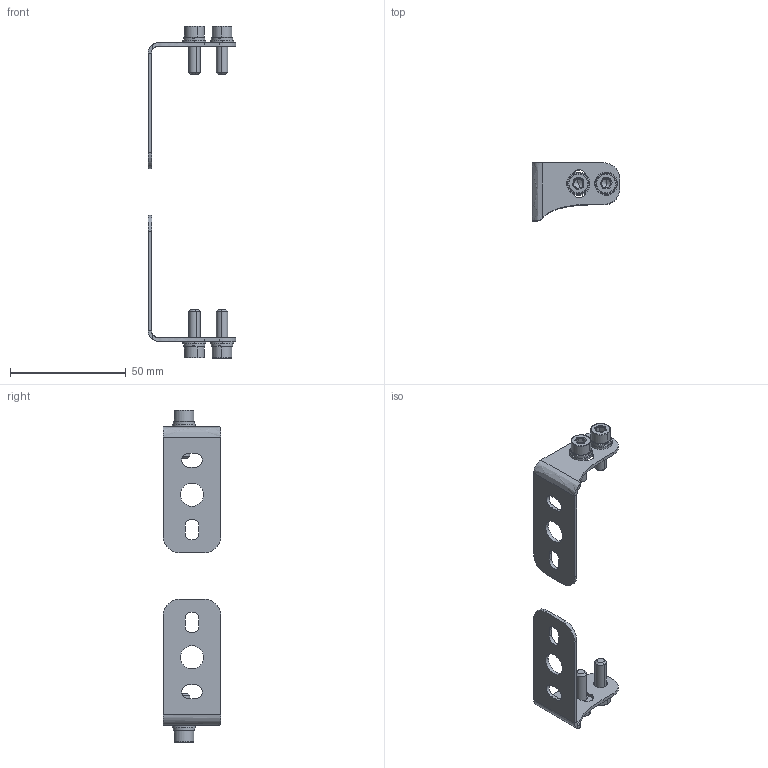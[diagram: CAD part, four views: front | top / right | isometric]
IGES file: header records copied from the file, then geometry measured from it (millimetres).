
Start section: SolidWorks IGES file using analytic representation for surfaces
Global section: file name: C:\Users\User\Desktop\Àêñåññóàðû Outliner S\Ñòàíäàðòíûé êðîíøòåéí Outliner S L=61.IGS; native system: SolidWorks 2020; preprocessor: SolidWorks 2020; author: User; date: 231115.182237; units: millimetre
Bounding box: 38 x 25 x 143.59 mm (x, y, z)
Volume: 7802.3 mm3; surface area: 11265.9 mm2
Topology: 14 solids, 14 shells, 338 faces, 794 edges, 444 vertices
Faces by surface type: revolution 220, plane 92, bspline 26
